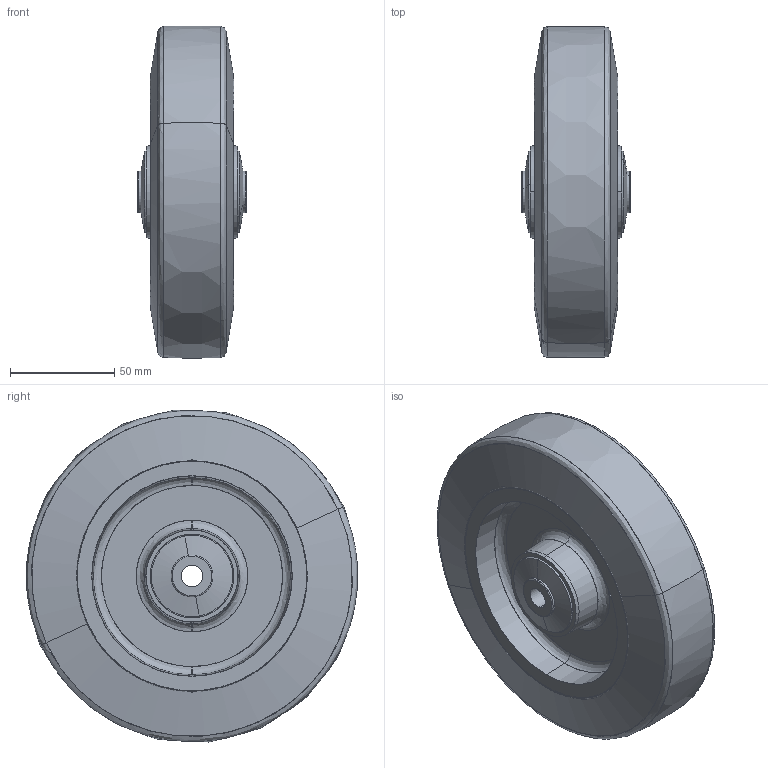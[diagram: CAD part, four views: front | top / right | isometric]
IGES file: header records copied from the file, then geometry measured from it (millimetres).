
Start section: SolidWorks IGES file using analytic representation for surfaces
Global section: file name: S:\Tyokansio\VL\21.10.2011\LK\400126_IGES.IGS; native system: SolidWorks 2011; preprocessor: SolidWorks 2011; author: VilleLa; date: 111021.144955; units: millimetre
Bounding box: 52 x 158.63 x 159.1 mm (x, y, z)
Surface area: 71385.7 mm2 (no closed solid volume)
Topology: 0 solids, 0 shells, 68 faces, 1384 edges, 1384 vertices
Faces by surface type: revolution 36, bspline 32
